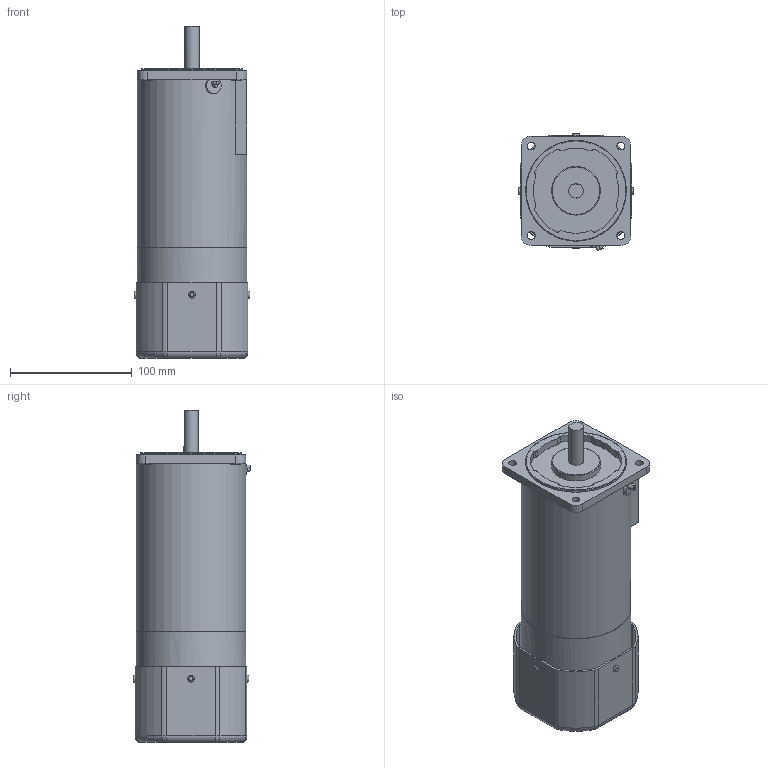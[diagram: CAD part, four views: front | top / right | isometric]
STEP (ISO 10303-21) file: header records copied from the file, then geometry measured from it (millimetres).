
FILE_DESCRIPTION((''),'2;1');
FILE_NAME('E:\2공장-도면\3D\표준형 3D(민규)\step file\D\K9RS180Fㅁ-D.stp','2014-11-17T11:08:00',('AHN'),(''),'Autodesk Inventor 2012','Autodesk Inventor 2012','');
FILE_SCHEMA(('CONFIG_CONTROL_DESIGN'));
Length unit declared in the file: millimetre
Products named in the file (1): K9RS180Fㅁ-D
Bounding box: 95 x 96.71 x 273 mm (x, y, z)
Volume: 1457207.1 mm3; surface area: 127696.2 mm2
Topology: 1 solids, 1 shells, 239 faces, 598 edges, 368 vertices
Faces by surface type: cylinder 121, plane 72, torus 38, bspline 8
Full cylindrical faces by diameter (mm): 6.5 x4, 8 x4, 12 x1, 40 x1, 83 x1, 89.8 x1, 90 x2
Entity records: 7716 total; most frequent: CARTESIAN_POINT 1990, DIRECTION 1233, ORIENTED_EDGE 1138, EDGE_CURVE 569, AXIS2_PLACEMENT_3D 489, VERTEX_POINT 359, EDGE_LOOP 307, CIRCLE 257
